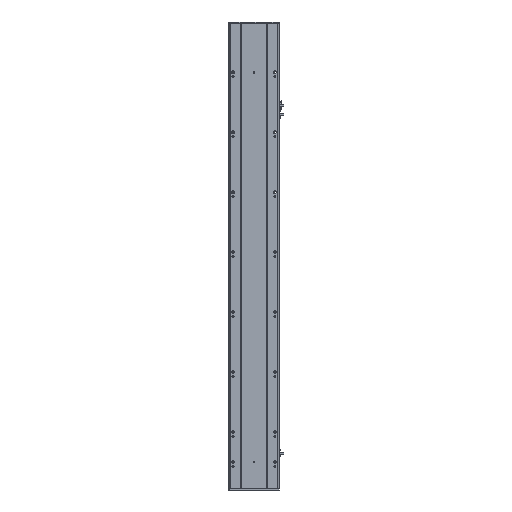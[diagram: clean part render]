
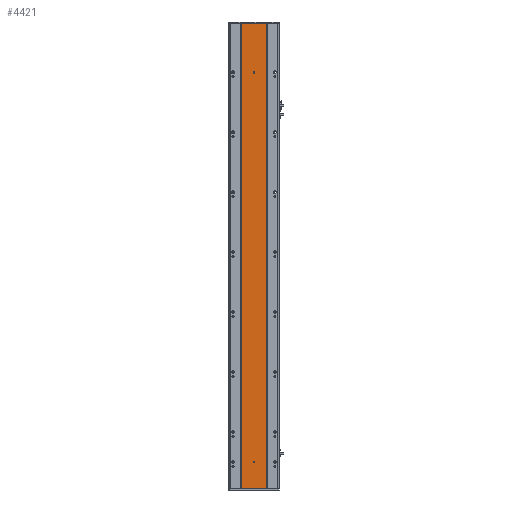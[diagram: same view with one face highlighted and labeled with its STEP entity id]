
A CAD part, front view. The second image highlights one B-rep face of the part: STEP entity #4421.
In plain terms, the highlighted planar face has unit normal (0, -1, 0).
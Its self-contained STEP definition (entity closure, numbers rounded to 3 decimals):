
#173 = ORIENTED_EDGE ( 'NONE', *, *, #7276, .F. ) ;
#295 = EDGE_CURVE ( 'NONE', #4219, #17933, #7749, .T. ) ;
#378 = DIRECTION ( 'NONE',  ( 0., 1., 0. ) ) ;
#467 = VERTEX_POINT ( 'NONE', #7423 ) ;
#649 = CARTESIAN_POINT ( 'NONE',  ( 85., 2.57, 88.5 ) ) ;
#1074 = ORIENTED_EDGE ( 'NONE', *, *, #12261, .T. ) ;
#1117 = CARTESIAN_POINT ( 'NONE',  ( 85., 2.57, 1391.5 ) ) ;
#1913 = ORIENTED_EDGE ( 'NONE', *, *, #15697, .T. ) ;
#1998 = LINE ( 'NONE', #17555, #2639 ) ;
#2608 = VERTEX_POINT ( 'NONE', #24622 ) ;
#2639 = VECTOR ( 'NONE', #9373, 1000. ) ;
#2726 = DIRECTION ( 'NONE',  ( 0., 0., 1. ) ) ;
#2776 = ORIENTED_EDGE ( 'NONE', *, *, #20352, .T. ) ;
#3528 = CARTESIAN_POINT ( 'NONE',  ( 42.916, 2.57, 0. ) ) ;
#3695 = CARTESIAN_POINT ( 'NONE',  ( 42.916, 2.57, 0. ) ) ;
#4198 = AXIS2_PLACEMENT_3D ( 'NONE', #18952, #6662, #21009 ) ;
#4219 = VERTEX_POINT ( 'NONE', #11881 ) ;
#4421 = ADVANCED_FACE ( 'NONE', ( #21712, #10763, #16875 ), #18919, .F. ) ;
#4536 = ORIENTED_EDGE ( 'NONE', *, *, #21999, .T. ) ;
#5723 = DIRECTION ( 'NONE',  ( 0., 0., 1. ) ) ;
#6203 = AXIS2_PLACEMENT_3D ( 'NONE', #649, #15043, #2726 ) ;
#6236 = AXIS2_PLACEMENT_3D ( 'NONE', #18776, #6460, #20820 ) ;
#6460 = DIRECTION ( 'NONE',  ( 0., 1., 0. ) ) ;
#6662 = DIRECTION ( 'NONE',  ( 0., 1., 0. ) ) ;
#7276 = EDGE_CURVE ( 'NONE', #2608, #4219, #26438, .T. ) ;
#7423 = CARTESIAN_POINT ( 'NONE',  ( 126.916, 2.57, 1551. ) ) ;
#7749 = LINE ( 'NONE', #3528, #23474 ) ;
#7827 = CARTESIAN_POINT ( 'NONE',  ( 85., 2.57, 1388.5 ) ) ;
#8558 = EDGE_LOOP ( 'NONE', ( #1074, #14219, #173, #16474 ) ) ;
#8687 = VERTEX_POINT ( 'NONE', #20976 ) ;
#9031 = CIRCLE ( 'NONE', #4198, 3. ) ;
#9270 = CIRCLE ( 'NONE', #6236, 3. ) ;
#9373 = DIRECTION ( 'NONE',  ( -1., 0., 0. ) ) ;
#9811 = DIRECTION ( 'NONE',  ( -1., 0., 0. ) ) ;
#9826 = CARTESIAN_POINT ( 'NONE',  ( 42.916, 2.57, 1551. ) ) ;
#9864 = DIRECTION ( 'NONE',  ( 0., 0., 1. ) ) ;
#9874 = VECTOR ( 'NONE', #26420, 1000. ) ;
#10502 = CARTESIAN_POINT ( 'NONE',  ( 85., 2.57, 91.5 ) ) ;
#10763 = FACE_BOUND ( 'NONE', #18927, .T. ) ;
#11881 = CARTESIAN_POINT ( 'NONE',  ( 42.916, 2.57, 0. ) ) ;
#12092 = CARTESIAN_POINT ( 'NONE',  ( 85., 2.57, 1385.5 ) ) ;
#12261 = EDGE_CURVE ( 'NONE', #467, #17933, #1998, .T. ) ;
#13338 = CIRCLE ( 'NONE', #16362, 3. ) ;
#14219 = ORIENTED_EDGE ( 'NONE', *, *, #295, .F. ) ;
#15043 = DIRECTION ( 'NONE',  ( 0., 1., 0. ) ) ;
#15697 = EDGE_CURVE ( 'NONE', #23350, #20097, #9270, .T. ) ;
#16168 = EDGE_CURVE ( 'NONE', #2608, #467, #21456, .T. ) ;
#16362 = AXIS2_PLACEMENT_3D ( 'NONE', #7827, #22180, #9864 ) ;
#16474 = ORIENTED_EDGE ( 'NONE', *, *, #16168, .T. ) ;
#16822 = CARTESIAN_POINT ( 'NONE',  ( 42.916, 2.57, 0. ) ) ;
#16875 = FACE_OUTER_BOUND ( 'NONE', #8558, .T. ) ;
#17296 = CIRCLE ( 'NONE', #6203, 3. ) ;
#17555 = CARTESIAN_POINT ( 'NONE',  ( 42.916, 2.57, 1551. ) ) ;
#17933 = VERTEX_POINT ( 'NONE', #9826 ) ;
#18776 = CARTESIAN_POINT ( 'NONE',  ( 85., 2.57, 1388.5 ) ) ;
#18800 = EDGE_CURVE ( 'NONE', #23718, #8687, #9031, .T. ) ;
#18919 = PLANE ( 'NONE',  #22137 ) ;
#18927 = EDGE_LOOP ( 'NONE', ( #4536, #1913 ) ) ;
#18952 = CARTESIAN_POINT ( 'NONE',  ( 85., 2.57, 88.5 ) ) ;
#19045 = EDGE_LOOP ( 'NONE', ( #2776, #23178 ) ) ;
#20097 = VERTEX_POINT ( 'NONE', #12092 ) ;
#20263 = CARTESIAN_POINT ( 'NONE',  ( 126.916, 2.57, 0. ) ) ;
#20352 = EDGE_CURVE ( 'NONE', #8687, #23718, #17296, .T. ) ;
#20820 = DIRECTION ( 'NONE',  ( 0., 0., 1. ) ) ;
#20970 = DIRECTION ( 'NONE',  ( 0., 0., 1. ) ) ;
#20976 = CARTESIAN_POINT ( 'NONE',  ( 85., 2.57, 85.5 ) ) ;
#21009 = DIRECTION ( 'NONE',  ( 0., 0., 1. ) ) ;
#21012 = VECTOR ( 'NONE', #9811, 1000. ) ;
#21456 = LINE ( 'NONE', #20263, #9874 ) ;
#21712 = FACE_BOUND ( 'NONE', #19045, .T. ) ;
#21999 = EDGE_CURVE ( 'NONE', #20097, #23350, #13338, .T. ) ;
#22137 = AXIS2_PLACEMENT_3D ( 'NONE', #16822, #378, #20970 ) ;
#22180 = DIRECTION ( 'NONE',  ( 0., 1., 0. ) ) ;
#23178 = ORIENTED_EDGE ( 'NONE', *, *, #18800, .T. ) ;
#23350 = VERTEX_POINT ( 'NONE', #1117 ) ;
#23474 = VECTOR ( 'NONE', #5723, 1000. ) ;
#23718 = VERTEX_POINT ( 'NONE', #10502 ) ;
#24622 = CARTESIAN_POINT ( 'NONE',  ( 126.916, 2.57, 0. ) ) ;
#26420 = DIRECTION ( 'NONE',  ( 0., 0., 1. ) ) ;
#26438 = LINE ( 'NONE', #3695, #21012 ) ;
